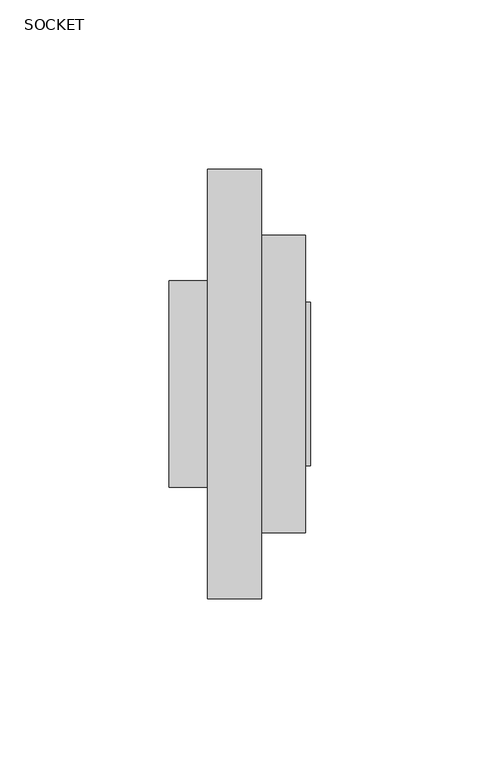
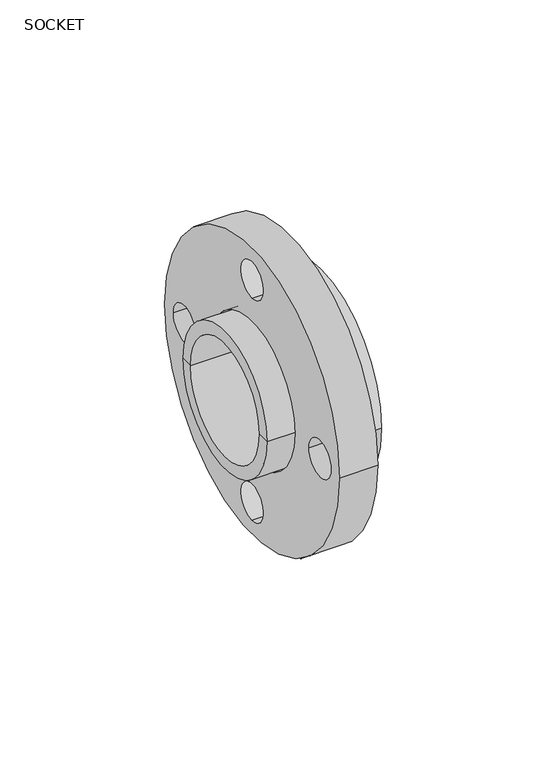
"""IFC4 building model written with IfcOpenShell, lengths in millimetres: valve geometry, Aquatherm - Flange Adapter Socket : SOCKET."""

from ifc_helpers import new_model, si_unit, point, frame, frame_2d, origin, origin_2d, place, context, project, spatial, polyline, circle_curve, trimmed, segment, composite_curve, outline, extrude, source, transform, mapped, element, save
from ifc_brep_helpers import plane_surface, cylinder_surface, revolved_surface, advanced_brep


def socket_641c743c(model_context):
    return source(origin(), model_context, "Body", "SolidModel", [
        extrude(outline(composite_curve([segment(trimmed(circle_curve(origin_2d(), 63.5), [point((-63.5, 0.0))], [point((63.5, 0.0))], False, "CARTESIAN"), True, "CONTINUOUS"), segment(trimmed(circle_curve(origin_2d(), 63.5), [point((63.5, 0.0))], [point((-63.5, 0.0))], False, "CARTESIAN"), True, "CONTINUOUS")], self_intersect=False), holes=[composite_curve([segment(trimmed(circle_curve(origin_2d(), 30.988), [point((-30.988, 0.0))], [point((30.988, 0.0))], True, "CARTESIAN"), True, "CONTINUOUS"), segment(trimmed(circle_curve(origin_2d(), 30.988), [point((30.988, 0.0))], [point((-30.988, 0.0))], True, "CARTESIAN"), True, "CONTINUOUS")], self_intersect=False), composite_curve([segment(trimmed(circle_curve(frame_2d((49.276, 0.0)), 8.001), [point((41.275, 0.0))], [point((57.277, 0.0))], True, "CARTESIAN"), True, "CONTINUOUS"), segment(trimmed(circle_curve(frame_2d((49.276, 0.0)), 8.001), [point((57.277, 0.0))], [point((41.275, 0.0))], True, "CARTESIAN"), True, "CONTINUOUS")], self_intersect=False), composite_curve([segment(trimmed(circle_curve(frame_2d((0.0, -49.276)), 8.001), [point((0.0, -41.275))], [point((0.0, -57.277))], True, "CARTESIAN"), True, "CONTINUOUS"), segment(trimmed(circle_curve(frame_2d((0.0, -49.276)), 8.001), [point((0.0, -57.277))], [point((0.0, -41.275))], True, "CARTESIAN"), True, "CONTINUOUS")], self_intersect=False), composite_curve([segment(trimmed(circle_curve(frame_2d((0.0, 49.276)), 8.001), [point((0.0, 41.275))], [point((0.0, 57.277))], True, "CARTESIAN"), True, "CONTINUOUS"), segment(trimmed(circle_curve(frame_2d((0.0, 49.276)), 8.001), [point((0.0, 57.277))], [point((0.0, 41.275))], True, "CARTESIAN"), True, "CONTINUOUS")], self_intersect=False), composite_curve([segment(trimmed(circle_curve(frame_2d((-49.276, 0.0)), 8.001), [point((-41.275, 0.0))], [point((-57.277, 0.0))], True, "CARTESIAN"), True, "CONTINUOUS"), segment(trimmed(circle_curve(frame_2d((-49.276, 0.0)), 8.001), [point((-57.277, 0.0))], [point((-41.275, 0.0))], True, "CARTESIAN"), True, "CONTINUOUS")], self_intersect=False)]), frame((-16.002, 0.0, 0.0), z_axis=(1.0, 0.0, 0.0), x_axis=(0.0, 1.0, 0.0)), (0.0, 0.0, 1.0), 16.002),
        advanced_brep(
        [(14.478, 19.05, 0.0), (14.478, -19.05, 0.0), (14.478, -24.13, 0.0), (14.478, 24.13, 0.0), (-4.064, 19.05, 0.0), (-4.064, -19.05, 0.0), (-4.064, 25.019, 0.0), (-4.064, -25.019, 0.0), (-27.432, 25.019, 0.0), (-27.432, -25.019, 0.0), (-27.432, 30.48, 0.0), (-27.432, -30.48, 0.0), (0.0, 30.48, 0.0), (0.0, -30.48, 0.0), (0.0, 43.942, 0.0), (0.0, -43.942, 0.0), (12.954, 43.942, 0.0), (12.954, -43.942, 0.0), (12.954, 24.13, 0.0), (12.954, -24.13, 0.0)],
        [
            (0, 1, circle_curve(frame((14.478, 0.0, 0.0), z_axis=(-1.0, 0.0, 0.0), x_axis=(0.0, -1.0, 0.0)), 19.05)),
            (1, 2),
            (2, 3, circle_curve(frame((14.478, 0.0, 0.0), z_axis=(1.0, 0.0, 0.0), x_axis=(0.0, -1.0, 0.0)), 24.13)),
            (3, 0),
            (1, 0, circle_curve(frame((14.478, 0.0, 0.0), z_axis=(-1.0, 0.0, 0.0), x_axis=(0.0, -1.0, 0.0)), 19.05)),
            (3, 2, circle_curve(frame((14.478, 0.0, 0.0), z_axis=(1.0, 0.0, 0.0), x_axis=(0.0, -1.0, 0.0)), 24.13)),
            (4, 5, circle_curve(frame((-4.064, 0.0, 0.0), z_axis=(-1.0, 0.0, 0.0), x_axis=(0.0, -1.0, 0.0)), 19.05)),
            (5, 1),
            (0, 4),
            (5, 4, circle_curve(frame((-4.064, 0.0, 0.0), z_axis=(-1.0, 0.0, 0.0), x_axis=(0.0, -1.0, 0.0)), 19.05)),
            (6, 7, circle_curve(frame((-4.064, 0.0, 0.0), z_axis=(-1.0, 0.0, 0.0), x_axis=(0.0, -1.0, 0.0)), 25.019)),
            (7, 5),
            (4, 6),
            (7, 6, circle_curve(frame((-4.064, 0.0, 0.0), z_axis=(-1.0, 0.0, 0.0), x_axis=(0.0, -1.0, 0.0)), 25.019)),
            (8, 9, circle_curve(frame((-27.432, 0.0, 0.0), z_axis=(-1.0, 0.0, 0.0), x_axis=(0.0, -1.0, 0.0)), 25.019)),
            (9, 7),
            (6, 8),
            (9, 8, circle_curve(frame((-27.432, 0.0, 0.0), z_axis=(-1.0, 0.0, 0.0), x_axis=(0.0, -1.0, 0.0)), 25.019)),
            (10, 11, circle_curve(frame((-27.432, 0.0, 0.0), z_axis=(-1.0, 0.0, 0.0), x_axis=(0.0, -1.0, 0.0)), 30.48)),
            (11, 9),
            (8, 10),
            (11, 10, circle_curve(frame((-27.432, 0.0, 0.0), z_axis=(-1.0, 0.0, 0.0), x_axis=(0.0, -1.0, 0.0)), 30.48)),
            (12, 13, circle_curve(frame((0.0, 0.0, 0.0), z_axis=(-1.0, 0.0, 0.0), x_axis=(0.0, -1.0, 0.0)), 30.48)),
            (13, 11),
            (10, 12),
            (13, 12, circle_curve(frame((0.0, 0.0, 0.0), z_axis=(-1.0, 0.0, 0.0), x_axis=(0.0, -1.0, 0.0)), 30.48)),
            (14, 15, circle_curve(frame((0.0, 0.0, 0.0), z_axis=(-1.0, 0.0, 0.0), x_axis=(0.0, -1.0, 0.0)), 43.942)),
            (15, 13),
            (12, 14),
            (15, 14, circle_curve(frame((0.0, 0.0, 0.0), z_axis=(-1.0, 0.0, 0.0), x_axis=(0.0, -1.0, 0.0)), 43.942)),
            (16, 17, circle_curve(frame((12.954, 0.0, 0.0), z_axis=(-1.0, 0.0, 0.0), x_axis=(0.0, -1.0, 0.0)), 43.942)),
            (17, 15),
            (14, 16),
            (17, 16, circle_curve(frame((12.954, 0.0, 0.0), z_axis=(-1.0, 0.0, 0.0), x_axis=(0.0, -1.0, 0.0)), 43.942)),
            (18, 19, circle_curve(frame((12.954, 0.0, 0.0), z_axis=(-1.0, 0.0, 0.0), x_axis=(0.0, -1.0, 0.0)), 24.13)),
            (19, 17),
            (16, 18),
            (19, 18, circle_curve(frame((12.954, 0.0, 0.0), z_axis=(-1.0, 0.0, 0.0), x_axis=(0.0, -1.0, 0.0)), 24.13)),
            (2, 19),
            (18, 3),
        ],
        [
            plane_surface(frame((14.478, 0.0, 0.0), z_axis=(1.0, 0.0, 0.0), x_axis=(0.0, -1.0, 0.0))),
            revolved_surface(polyline([(14.478000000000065, -19.05, 0.0), (-4.064000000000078, -19.05, 0.0)]), (1443.7731939, 0.0, 0.0), (1.0, 0.0, 0.0)),
            plane_surface(frame((-4.064, 0.0, 0.0), z_axis=(-1.0, 0.0, 0.0), x_axis=(0.0, -1.0, 0.0))),
            revolved_surface(polyline([(-4.064000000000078, -25.019, 0.0), (-27.432000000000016, -25.019, 0.0)]), (1443.7731939, 0.0, 0.0), (1.0, 0.0, 0.0)),
            plane_surface(frame((-27.432, 0.0, 0.0), z_axis=(-1.0, 0.0, 0.0), x_axis=(0.0, -1.0, 0.0))),
            cylinder_surface(frame((1443.7731939, 0.0, 0.0), z_axis=(1.0, 0.0, 0.0), x_axis=(0.0, -1.0, 0.0)), 30.48),
            plane_surface(frame((0.0, 0.0, 0.0), z_axis=(-1.0, 0.0, 0.0), x_axis=(0.0, -1.0, 0.0))),
            cylinder_surface(frame((1443.7731939, 0.0, 0.0), z_axis=(1.0, 0.0, 0.0), x_axis=(0.0, -1.0, 0.0)), 43.942),
            plane_surface(frame((12.954, 0.0, 0.0), z_axis=(1.0, 0.0, 0.0), x_axis=(0.0, -1.0, 0.0))),
            cylinder_surface(frame((1443.7731939, 0.0, 0.0), z_axis=(1.0, 0.0, 0.0), x_axis=(0.0, -1.0, 0.0)), 24.13),
        ],
        [
            (0, [[1, 2, 3, 4]]),
            (0, [[5, -4, 6, -2]]),
            (1, [[7, 8, -1, 9]]),
            (1, [[10, -9, -5, -8]]),
            (2, [[11, 12, -7, 13]]),
            (2, [[14, -13, -10, -12]]),
            (3, [[15, 16, -11, 17]]),
            (3, [[18, -17, -14, -16]]),
            (4, [[19, 20, -15, 21]]),
            (4, [[22, -21, -18, -20]]),
            (5, [[23, 24, -19, 25]]),
            (5, [[26, -25, -22, -24]]),
            (6, [[27, 28, -23, 29]]),
            (6, [[30, -29, -26, -28]]),
            (7, [[31, 32, -27, 33]]),
            (7, [[34, -33, -30, -32]]),
            (8, [[35, 36, -31, 37]]),
            (8, [[38, -37, -34, -36]]),
            (9, [[-3, 39, -35, 40]]),
            (9, [[-6, -40, -38, -39]]),
        ],
    ),
    ])


if __name__ == "__main__":
    model = new_model("IFC4")
    model_context = context("Model", 3, world=origin())
    ifc_project = project(units=[si_unit("LENGTHUNIT", "METRE", prefix="MILLI")], contexts=[model_context])
    site = spatial("IfcSite", under=ifc_project)
    building = spatial("IfcBuilding", under=site)
    placement = place(None, origin())
    ifc_socket_shape = socket_641c743c(model_context)
    element("IfcValve", 1, ObjectType="Aquatherm - Flange Adapter Socket : SOCKET", at=placement, inside=building, context=model_context, shape_type="MappedRepresentation", body=[
        mapped(ifc_socket_shape, transform((0.0, 0.0, 0.0), x_axis=(1.0, 0.0, 0.0), y_axis=(0.0, 1.0, 0.0), z_axis=(0.0, 0.0, 1.0))),
    ])
    save(model, "model.ifc")
